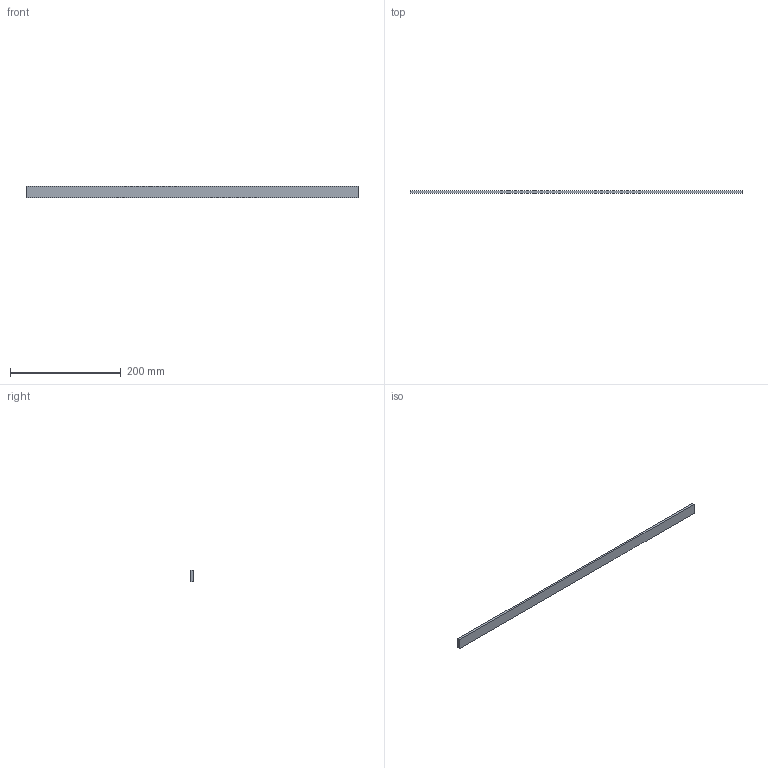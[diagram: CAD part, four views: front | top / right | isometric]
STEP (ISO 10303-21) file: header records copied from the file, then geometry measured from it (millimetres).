
FILE_DESCRIPTION (( 'STEP AP203' ), '1' );
FILE_NAME ('Adaptateur_Charnière.STEP', '2026-06-24T07:29:51', ( '' ), ( '' ), 'SwSTEP 2.0', 'SolidWorks 2024', '' );
FILE_SCHEMA (( 'CONFIG_CONTROL_DESIGN' ));
Length unit declared in the file: millimetre
Products named in the file (1): Adaptateur_Charnière
Bounding box: 600 x 4 x 20 mm (x, y, z)
Volume: 48000 mm3; surface area: 28960 mm2
Topology: 1 solids, 1 shells, 6 faces, 12 edges, 8 vertices
Faces by surface type: plane 6
Entity records: 231 total; most frequent: CARTESIAN_POINT 27, DIRECTION 26, ORIENTED_EDGE 24, VECTOR 12, EDGE_CURVE 12, LINE 12, VERTEX_POINT 8, PERSON_AND_ORGANIZATION 8
